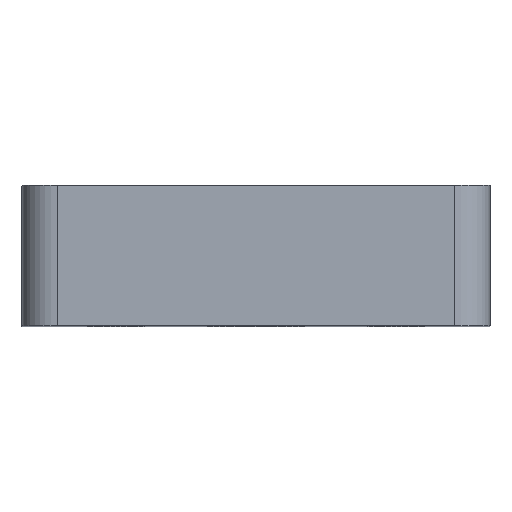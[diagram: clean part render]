
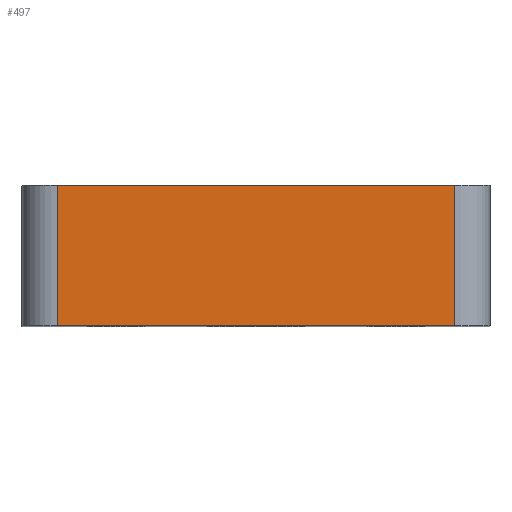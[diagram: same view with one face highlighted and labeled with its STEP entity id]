
A CAD part, top view. The second image highlights one B-rep face of the part: STEP entity #497.
In plain terms, the highlighted planar face has unit normal (0, 0, 1).
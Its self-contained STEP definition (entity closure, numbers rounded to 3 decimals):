
#18 = ORIENTED_EDGE ( 'NONE', *, *, #469, .T. ) ;
#20 = CARTESIAN_POINT ( 'NONE',  ( -11.3, 4., 16.65 ) ) ;
#74 = ORIENTED_EDGE ( 'NONE', *, *, #114, .F. ) ;
#76 = VERTEX_POINT ( 'NONE', #690 ) ;
#101 = FACE_OUTER_BOUND ( 'NONE', #951, .T. ) ;
#114 = EDGE_CURVE ( 'NONE', #182, #76, #329, .T. ) ;
#138 = VECTOR ( 'NONE', #1012, 1000. ) ;
#166 = LINE ( 'NONE', #541, #138 ) ;
#182 = VERTEX_POINT ( 'NONE', #339 ) ;
#190 = VECTOR ( 'NONE', #430, 1000. ) ;
#194 = ORIENTED_EDGE ( 'NONE', *, *, #389, .T. ) ;
#298 = CARTESIAN_POINT ( 'NONE',  ( 11.3, 4., 16.65 ) ) ;
#312 = PLANE ( 'NONE',  #739 ) ;
#318 = VECTOR ( 'NONE', #396, 1000. ) ;
#329 = LINE ( 'NONE', #805, #190 ) ;
#339 = CARTESIAN_POINT ( 'NONE',  ( -11.3, 4., 16.65 ) ) ;
#389 = EDGE_CURVE ( 'NONE', #464, #76, #1054, .T. ) ;
#396 = DIRECTION ( 'NONE',  ( 0., 1., 0. ) ) ;
#430 = DIRECTION ( 'NONE',  ( 1., 0., 0. ) ) ;
#434 = CARTESIAN_POINT ( 'NONE',  ( -11.3, -4., 16.65 ) ) ;
#462 = LINE ( 'NONE', #20, #763 ) ;
#464 = VERTEX_POINT ( 'NONE', #1021 ) ;
#469 = EDGE_CURVE ( 'NONE', #182, #882, #462, .T. ) ;
#473 = EDGE_CURVE ( 'NONE', #882, #464, #166, .T. ) ;
#497 = ADVANCED_FACE ( 'NONE', ( #101 ), #312, .F. ) ;
#541 = CARTESIAN_POINT ( 'NONE',  ( -13.3, -4., 16.65 ) ) ;
#690 = CARTESIAN_POINT ( 'NONE',  ( 11.3, 4., 16.65 ) ) ;
#739 = AXIS2_PLACEMENT_3D ( 'NONE', #911, #928, #1014 ) ;
#763 = VECTOR ( 'NONE', #789, 1000. ) ;
#789 = DIRECTION ( 'NONE',  ( 0., -1., 0. ) ) ;
#805 = CARTESIAN_POINT ( 'NONE',  ( -13.3, 4., 16.65 ) ) ;
#882 = VERTEX_POINT ( 'NONE', #434 ) ;
#911 = CARTESIAN_POINT ( 'NONE',  ( -13.3, 4., 16.65 ) ) ;
#916 = ORIENTED_EDGE ( 'NONE', *, *, #473, .T. ) ;
#928 = DIRECTION ( 'NONE',  ( 0., 0., -1. ) ) ;
#951 = EDGE_LOOP ( 'NONE', ( #74, #18, #916, #194 ) ) ;
#1012 = DIRECTION ( 'NONE',  ( 1., 0., 0. ) ) ;
#1014 = DIRECTION ( 'NONE',  ( -1., 0., 0. ) ) ;
#1021 = CARTESIAN_POINT ( 'NONE',  ( 11.3, -4., 16.65 ) ) ;
#1054 = LINE ( 'NONE', #298, #318 ) ;
